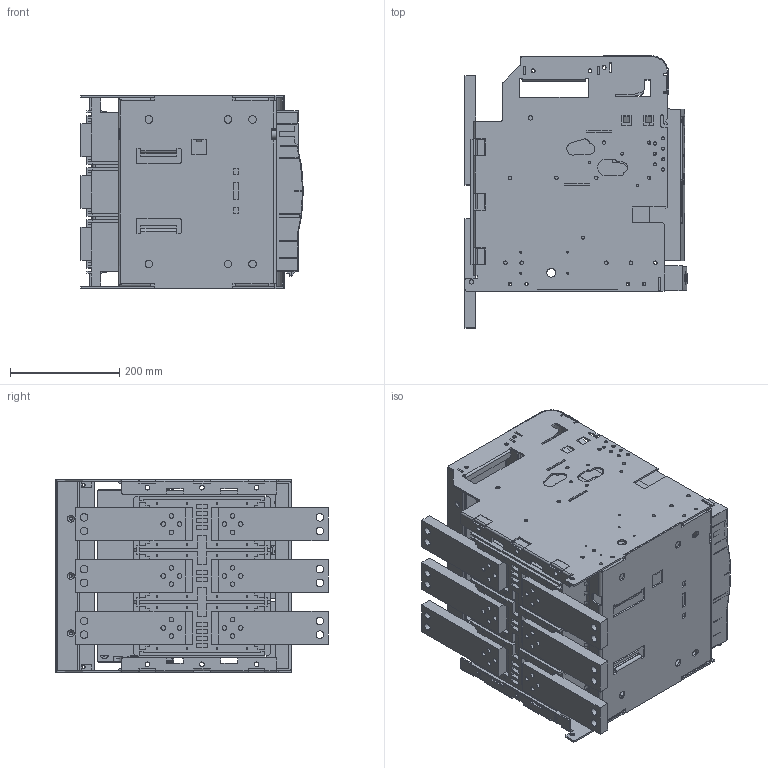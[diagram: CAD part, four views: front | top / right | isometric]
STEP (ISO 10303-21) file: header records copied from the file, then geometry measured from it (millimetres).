
FILE_DESCRIPTION (( 'STEP AP214' ), '1' );
FILE_NAME ('OptiMat A-S2-B-2000-3P-D-X.STEP', '2023-10-18T11:29:09', ( '' ), ( '' ), 'SwSTEP 2.0', 'SolidWorks 2018', '' );
FILE_SCHEMA (( 'AUTOMOTIVE_DESIGN' ));
Length unit declared in the file: millimetre
Products named in the file (1): OptiMat A-S2-B-2000-3P-D-X
Bounding box: 407.05 x 498.5 x 355 mm (x, y, z)
Volume: 31970963.9 mm3; surface area: 2564107.8 mm2
Topology: 15 solids, 16 shells, 4778 faces, 12478 edges, 7812 vertices
Faces by surface type: plane 1989, cylinder 1758, torus 350, cone 333, bspline 288, sphere 60
Entity records: 221462 total; most frequent: CARTESIAN_POINT 52623, ORIENTED_EDGE 24886, DIRECTION 24059, EDGE_CURVE 12443, AXIS2_PLACEMENT_3D 8578, VERTEX_POINT 7806, VECTOR 6903, LINE 6903
